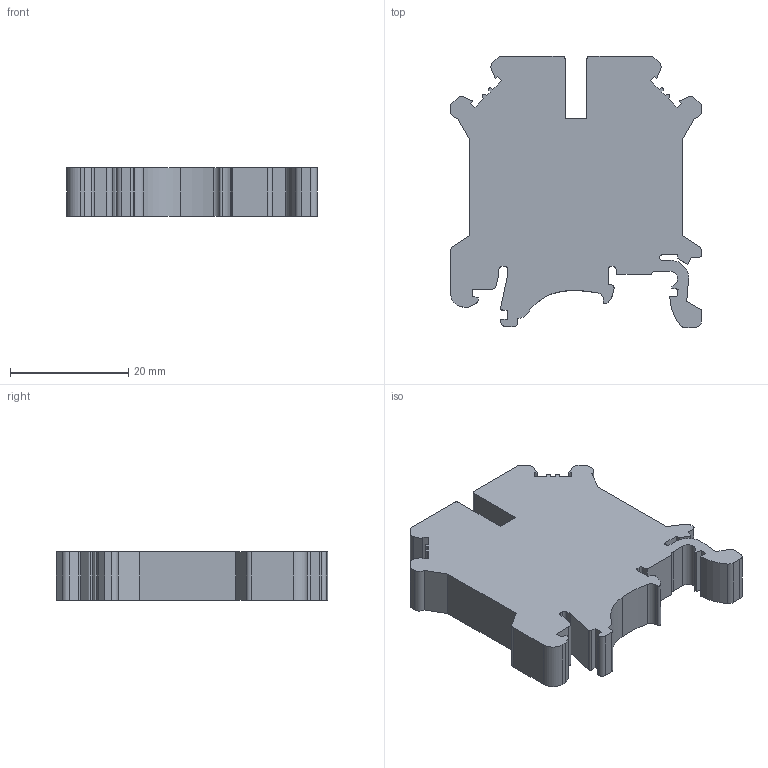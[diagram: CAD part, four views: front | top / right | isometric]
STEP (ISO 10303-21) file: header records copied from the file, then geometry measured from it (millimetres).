
FILE_DESCRIPTION(/* description */ (''),/* implementation_level */ '2;1');
FILE_NAME(/* name */ 'UT1-6.stp',/* time_stamp */ '2023-02-14T13:50:11+08:00',/* author */ (''),/* organization */ (''),/* preprocessor_version */ 'ST-DEVELOPER v16.7',/* originating_system */ 'SIEMENS PLM Software NX 12.0',/* authorisation */ '');
FILE_SCHEMA (('AP203_CONFIGURATION_CONTROLLED_3D_DESIGN_OF_MECHANICAL_PARTS_AND_ASSEMBLIES_MIM_LF { 1 0 10303 403 2 1 2}'));
Length unit declared in the file: millimetre
Products named in the file (1): Admi01CC23451nls
Bounding box: 42.5 x 46 x 8.2 mm (x, y, z)
Volume: 11643.2 mm3; surface area: 4993.9 mm2
Topology: 1 solids, 1 shells, 128 faces, 378 edges, 252 vertices
Faces by surface type: plane 87, cylinder 41
Entity records: 4366 total; most frequent: CARTESIAN_POINT 759, ORIENTED_EDGE 756, DIRECTION 718, EDGE_CURVE 378, LINE 296, VECTOR 296, VERTEX_POINT 252, AXIS2_PLACEMENT_3D 211
